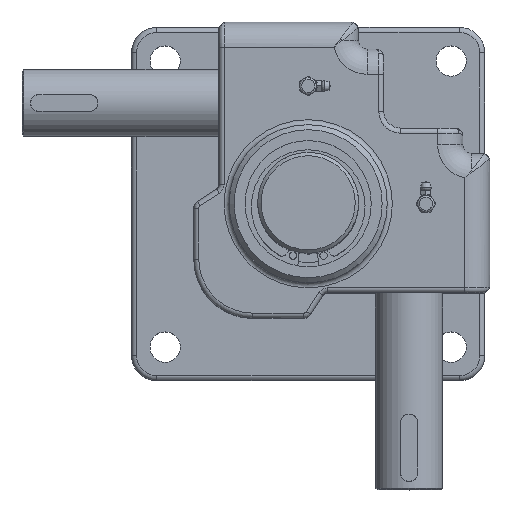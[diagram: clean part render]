
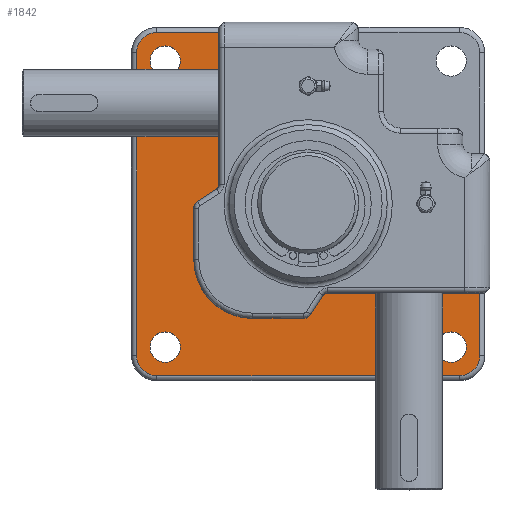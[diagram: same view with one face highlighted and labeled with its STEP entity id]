
A CAD part, top view. The second image highlights one B-rep face of the part: STEP entity #1842.
In plain terms, the highlighted planar face has unit normal (0, 0, 1).
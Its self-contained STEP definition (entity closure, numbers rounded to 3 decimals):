
#1842=ADVANCED_FACE('',(#5265,#5266,#5267,#5268),#5269,.T.);
#5265=FACE_OUTER_BOUND('',#10851,.T.);
#5266=FACE_BOUND('',#10852,.T.);
#5267=FACE_BOUND('',#10853,.T.);
#5268=FACE_BOUND('',#10854,.T.);
#5269=PLANE('',#10855);
#10851=EDGE_LOOP('',(#20428,#20429,#20430,#20431,#20432,#20433,#20434,#20435,#20436,#20437,#20438,#20439,#20440,#20441,#20442,#20443,#20444,#20445));
#10852=EDGE_LOOP('',(#20446));
#10853=EDGE_LOOP('',(#20447));
#10854=EDGE_LOOP('',(#20448));
#10855=AXIS2_PLACEMENT_3D('',#20449,#20450,#20451);
#20428=ORIENTED_EDGE('',*,*,#37158,.T.);
#20429=ORIENTED_EDGE('',*,*,#36578,.T.);
#20430=ORIENTED_EDGE('',*,*,#37032,.T.);
#20431=ORIENTED_EDGE('',*,*,#36695,.T.);
#20432=ORIENTED_EDGE('',*,*,#37055,.T.);
#20433=ORIENTED_EDGE('',*,*,#36476,.T.);
#20434=ORIENTED_EDGE('',*,*,#36218,.T.);
#20435=ORIENTED_EDGE('',*,*,#36646,.F.);
#20436=ORIENTED_EDGE('',*,*,#37141,.T.);
#20437=ORIENTED_EDGE('',*,*,#37204,.T.);
#20438=ORIENTED_EDGE('',*,*,#37203,.F.);
#20439=ORIENTED_EDGE('',*,*,#36479,.F.);
#20440=ORIENTED_EDGE('',*,*,#37162,.F.);
#20441=ORIENTED_EDGE('',*,*,#37232,.F.);
#20442=ORIENTED_EDGE('',*,*,#36606,.F.);
#20443=ORIENTED_EDGE('',*,*,#36953,.F.);
#20444=ORIENTED_EDGE('',*,*,#37233,.T.);
#20445=ORIENTED_EDGE('',*,*,#37177,.T.);
#20446=ORIENTED_EDGE('',*,*,#36638,.F.);
#20447=ORIENTED_EDGE('',*,*,#36680,.F.);
#20448=ORIENTED_EDGE('',*,*,#36145,.F.);
#20449=CARTESIAN_POINT('',(0.0,0.,-55.0));
#20450=DIRECTION('',(0.,0.,1.0));
#20451=DIRECTION('',(1.0,0.,0.));
#36145=EDGE_CURVE('',#43102,#43102,#43103,.T.);
#36218=EDGE_CURVE('',#43240,#43241,#43242,.T.);
#36476=EDGE_CURVE('',#43711,#43240,#43713,.T.);
#36479=EDGE_CURVE('',#43716,#43714,#43718,.T.);
#36578=EDGE_CURVE('',#43877,#43882,#43884,.T.);
#36606=EDGE_CURVE('',#43925,#43923,#43927,.T.);
#36638=EDGE_CURVE('',#43984,#43984,#43985,.T.);
#36646=EDGE_CURVE('',#43999,#43241,#44000,.T.);
#36680=EDGE_CURVE('',#44055,#44055,#44056,.T.);
#36695=EDGE_CURVE('',#44077,#44082,#44084,.T.);
#36953=EDGE_CURVE('',#44508,#43925,#44510,.T.);
#37032=EDGE_CURVE('',#43882,#44077,#44616,.T.);
#37055=EDGE_CURVE('',#44082,#43711,#44647,.T.);
#37141=EDGE_CURVE('',#43999,#44760,#44761,.T.);
#37158=EDGE_CURVE('',#44781,#43877,#44782,.T.);
#37162=EDGE_CURVE('',#44786,#43716,#44788,.T.);
#37177=EDGE_CURVE('',#44802,#44781,#44807,.T.);
#37203=EDGE_CURVE('',#43714,#44839,#44841,.T.);
#37204=EDGE_CURVE('',#44760,#44839,#44842,.T.);
#37232=EDGE_CURVE('',#43923,#44786,#44876,.T.);
#37233=EDGE_CURVE('',#44508,#44802,#44877,.T.);
#43102=VERTEX_POINT('',#54795);
#43103=CIRCLE('',#54796,9.0);
#43240=VERTEX_POINT('',#55374);
#43241=VERTEX_POINT('',#55375);
#43242=LINE('',#55376,#55377);
#43711=VERTEX_POINT('',#56287);
#43713=CIRCLE('',#56289,12.0);
#43714=VERTEX_POINT('',#56290);
#43716=VERTEX_POINT('',#56293);
#43718=LINE('',#56296,#56297);
#43877=VERTEX_POINT('',#56946);
#43882=VERTEX_POINT('',#56951);
#43884=CIRCLE('',#56953,12.0);
#43923=VERTEX_POINT('',#57036);
#43925=VERTEX_POINT('',#57039);
#43927=CIRCLE('',#57042,5.0);
#43984=VERTEX_POINT('',#57116);
#43985=CIRCLE('',#57117,9.0);
#43999=VERTEX_POINT('',#57134);
#44000=LINE('',#57135,#57136);
#44055=VERTEX_POINT('',#57205);
#44056=CIRCLE('',#57206,9.0);
#44077=VERTEX_POINT('',#57229);
#44082=VERTEX_POINT('',#57234);
#44084=CIRCLE('',#57236,12.0);
#44508=VERTEX_POINT('',#57790);
#44510=LINE('',#57793,#57794);
#44616=LINE('',#57954,#57955);
#44647=LINE('',#58006,#58007);
#44760=VERTEX_POINT('',#58164);
#44761=CIRCLE('',#58165,3.0);
#44781=VERTEX_POINT('',#58224);
#44782=LINE('',#58225,#58226);
#44786=VERTEX_POINT('',#58230);
#44788=CIRCLE('',#58233,35.0);
#44802=VERTEX_POINT('',#58253);
#44807=LINE('',#58260,#58261);
#44839=VERTEX_POINT('',#58304);
#44841=CIRCLE('',#58307,5.0);
#44842=LINE('',#58308,#58309);
#44876=LINE('',#58363,#58364);
#44877=CIRCLE('',#58365,3.0);
#54795=CARTESIAN_POINT('',(-76.0,85.0,-55.0));
#54796=AXIS2_PLACEMENT_3D('',#72050,#72051,#72052);
#55374=CARTESIAN_POINT('',(102.0,-90.,-55.0));
#55375=CARTESIAN_POINT('',(102.0,-53.0,-55.0));
#55376=CARTESIAN_POINT('',(102.0,0.0,-55.0));
#55377=VECTOR('',#72161,1.0);
#56287=CARTESIAN_POINT('',(90.0,-102.0,-55.0));
#56289=AXIS2_PLACEMENT_3D('',#72639,#72640,#72641);
#56290=CARTESIAN_POINT('',(-2.715,-68.0,-55.0));
#56293=CARTESIAN_POINT('',(-33.0,-68.0,-55.0));
#56296=CARTESIAN_POINT('',(-17.857,-68.0,-55.0));
#56297=VECTOR('',#72644,1.0);
#56946=CARTESIAN_POINT('',(-90.0,102.0,-55.0));
#56951=CARTESIAN_POINT('',(-102.0,90.,-55.0));
#56953=AXIS2_PLACEMENT_3D('',#72807,#72808,#72809);
#57036=CARTESIAN_POINT('',(-68.0,-2.715,-55.0));
#57039=CARTESIAN_POINT('',(-65.723,1.479,-55.0));
#57042=AXIS2_PLACEMENT_3D('',#72857,#72858,#72859);
#57116=CARTESIAN_POINT('',(94.0,-85.0,-55.0));
#57117=AXIS2_PLACEMENT_3D('',#72926,#72927,#72928);
#57134=CARTESIAN_POINT('',(11.37,-53.0,-55.0));
#57135=CARTESIAN_POINT('',(56.685,-53.0,-55.0));
#57136=VECTOR('',#72944,1.0);
#57205=CARTESIAN_POINT('',(-76.0,-85.0,-55.0));
#57206=AXIS2_PLACEMENT_3D('',#73016,#73017,#73018);
#57229=CARTESIAN_POINT('',(-102.0,-90.0,-55.0));
#57234=CARTESIAN_POINT('',(-90.,-102.0,-55.0));
#57236=AXIS2_PLACEMENT_3D('',#73057,#73058,#73059);
#57790=CARTESIAN_POINT('',(-54.366,8.854,-55.0));
#57793=CARTESIAN_POINT('',(-60.045,5.166,-55.0));
#57794=VECTOR('',#73626,1.0);
#57954=CARTESIAN_POINT('',(-102.0,0.0,-55.0));
#57955=VECTOR('',#73775,1.0);
#58006=CARTESIAN_POINT('',(0.0,-102.0,-55.0));
#58007=VECTOR('',#73827,1.0);
#58164=CARTESIAN_POINT('',(8.854,-54.366,-55.0));
#58165=AXIS2_PLACEMENT_3D('',#74006,#74007,#74008);
#58224=CARTESIAN_POINT('',(-53.0,102.0,-55.0));
#58225=CARTESIAN_POINT('',(0.,102.0,-55.0));
#58226=VECTOR('',#74034,1.0);
#58230=CARTESIAN_POINT('',(-68.0,-33.0,-55.0));
#58233=AXIS2_PLACEMENT_3D('',#74042,#74043,#74044);
#58253=CARTESIAN_POINT('',(-53.0,11.37,-55.0));
#58260=CARTESIAN_POINT('',(-53.0,56.685,-55.0));
#58261=VECTOR('',#74071,1.0);
#58304=CARTESIAN_POINT('',(1.479,-65.723,-55.0));
#58307=AXIS2_PLACEMENT_3D('',#74123,#74124,#74125);
#58308=CARTESIAN_POINT('',(5.166,-60.045,-55.0));
#58309=VECTOR('',#74126,1.0);
#58363=CARTESIAN_POINT('',(-68.0,-17.857,-55.0));
#58364=VECTOR('',#74183,1.0);
#58365=AXIS2_PLACEMENT_3D('',#74184,#74185,#74186);
#72050=CARTESIAN_POINT('',(-85.0,85.0,-55.0));
#72051=DIRECTION('',(0.,0.,1.0));
#72052=DIRECTION('',(1.0,0.,0.));
#72161=DIRECTION('',(0.0,1.0,0.));
#72639=CARTESIAN_POINT('',(90.0,-90.0,-55.0));
#72640=DIRECTION('',(0.0,0.0,1.0));
#72641=DIRECTION('',(1.0,0.0,0.0));
#72644=DIRECTION('',(1.0,0.0,0.));
#72807=CARTESIAN_POINT('',(-90.0,90.0,-55.0));
#72808=DIRECTION('',(0.0,0.0,1.0));
#72809=DIRECTION('',(1.0,0.0,0.0));
#72857=CARTESIAN_POINT('',(-63.0,-2.715,-55.0));
#72858=DIRECTION('',(0.,0.,1.0));
#72859=DIRECTION('',(1.0,0.,0.));
#72926=CARTESIAN_POINT('',(85.0,-85.0,-55.0));
#72927=DIRECTION('',(0.,0.,1.0));
#72928=DIRECTION('',(1.0,0.,0.));
#72944=DIRECTION('',(1.0,0.0,0.));
#73016=CARTESIAN_POINT('',(-85.0,-85.0,-55.0));
#73017=DIRECTION('',(0.,0.,1.0));
#73018=DIRECTION('',(1.0,0.,0.));
#73057=CARTESIAN_POINT('',(-90.0,-90.0,-55.0));
#73058=DIRECTION('',(0.0,0.0,1.0));
#73059=DIRECTION('',(1.0,0.0,0.0));
#73626=DIRECTION('',(-0.839,-0.545,0.0));
#73775=DIRECTION('',(0.0,-1.0,0.));
#73827=DIRECTION('',(1.0,0.0,0.));
#74006=CARTESIAN_POINT('',(11.37,-56.0,-55.0));
#74007=DIRECTION('',(0.,0.,1.0));
#74008=DIRECTION('',(1.0,0.,0.));
#74034=DIRECTION('',(-1.0,0.0,0.));
#74042=CARTESIAN_POINT('',(-33.0,-33.0,-55.0));
#74043=DIRECTION('',(0.,0.,1.0));
#74044=DIRECTION('',(1.0,0.,0.));
#74071=DIRECTION('',(0.0,1.0,0.));
#74123=CARTESIAN_POINT('',(-2.715,-63.0,-55.0));
#74124=DIRECTION('',(0.,0.,1.0));
#74125=DIRECTION('',(1.0,0.,0.));
#74126=DIRECTION('',(-0.545,-0.839,0.));
#74183=DIRECTION('',(0.0,-1.0,0.));
#74184=CARTESIAN_POINT('',(-56.0,11.37,-55.0));
#74185=DIRECTION('',(0.,0.,1.0));
#74186=DIRECTION('',(1.0,0.,0.));
